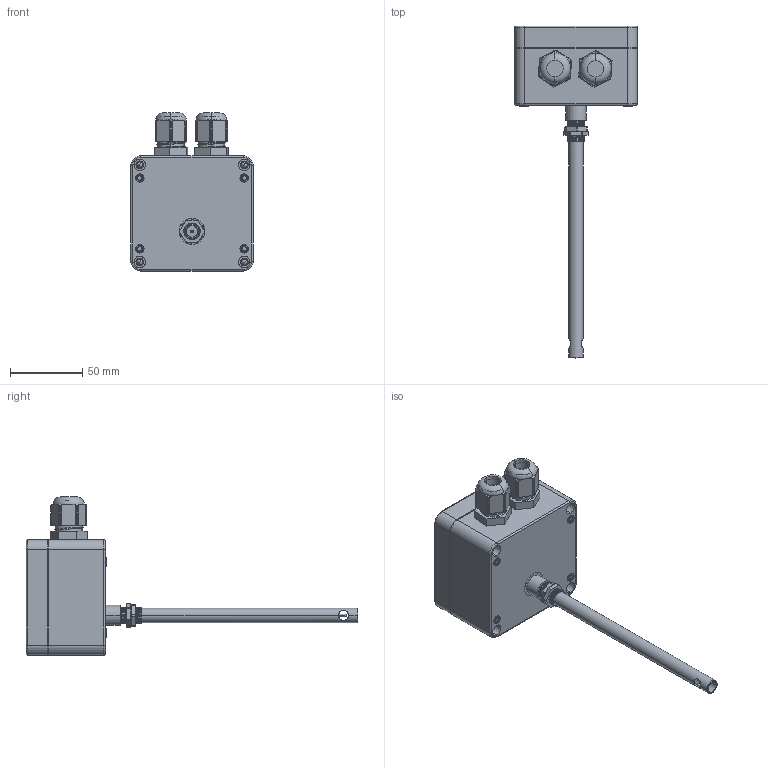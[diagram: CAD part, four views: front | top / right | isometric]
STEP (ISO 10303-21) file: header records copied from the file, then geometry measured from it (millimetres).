
FILE_DESCRIPTION (( 'STEP AP203' ), '1' );
FILE_NAME ('165MM... Assem1.STEP', '2023-01-02T18:08:49', ( '' ), ( '' ), 'SwSTEP 2.0', 'SolidWorks 2019', '' );
FILE_SCHEMA (( 'CONFIG_CONTROL_DESIGN' ));
Length unit declared in the file: millimetre
Products named in the file (5): Part2 screw.STEP; 165MM... Assem1; PLUG.STEP; TUBE 165 MM LENTH - ....STEP; Part1.STEP
Assembly tree (8 placements, depth 2):
  165MM... Assem1
    Part1.STEP
    Part2 screw.STEP  x4
    PLUG.STEP  x2
    TUBE 165 MM LENTH - ....STEP
Bounding box: 85 x 230.3 x 109.79 mm (x, y, z)
Volume: 339082 mm3; surface area: 95704.2 mm2
Topology: 18 solids, 19 shells, 883 faces, 2410 edges, 1576 vertices
Faces by surface type: cylinder 496, plane 296, torus 54, bspline 29, cone 8
Entity records: 27180 total; most frequent: CARTESIAN_POINT 15686, ORIENTED_EDGE 2460, DIRECTION 2130, EDGE_CURVE 1230, VERTEX_POINT 799, AXIS2_PLACEMENT_3D 794, LINE 542, VECTOR 542
